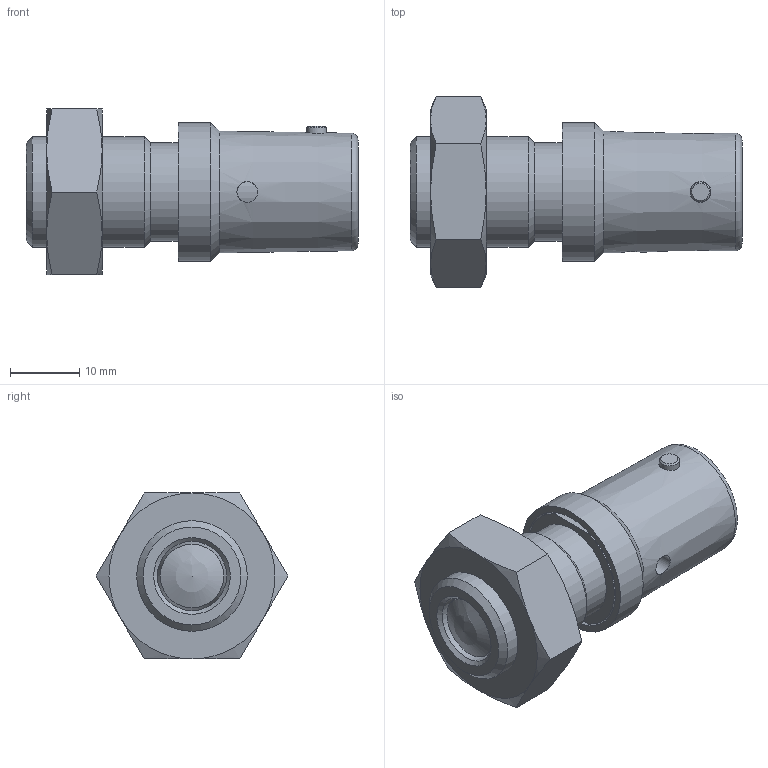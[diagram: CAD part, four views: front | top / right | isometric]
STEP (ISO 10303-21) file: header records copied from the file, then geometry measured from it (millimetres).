
FILE_DESCRIPTION( ( 'STEP AP203' ), '1' );
FILE_NAME( 'C:/Temp/Ganter_Step_05_03_2020/data/3_1/gn816/gn_816_bk/Locking plunger GN 816-10-M16x1,5-BK (activated).stp', '2020-03-12T08:56:05', ( 'License CC BY-ND 4.0' ), ( 'CADENAS' ), ' ', 'PARTsolutions', ' ' );
FILE_SCHEMA( ( 'CONFIG_CONTROL_DESIGN' ) );
Length unit declared in the file: millimetre
Products named in the file (4): Locking plunger GN 816-10-M16x1,5-BK (activated); _GN 816-10-M16x1,5-B(1)-b2; _GN 816-10-M16x1,5-Bb1; _Lock nut ISO 8675 GN 816-10-M16x1,5-AK
Assembly tree (3 placements, depth 2):
  Locking plunger GN 816-10-M16x1,5-BK (activated)
    _GN 816-10-M16x1,5-B(1)-b2
    _GN 816-10-M16x1,5-Bb1
    _Lock nut ISO 8675 GN 816-10-M16x1,5-AK
Bounding box: 48 x 27.71 x 24 mm (x, y, z)
Volume: 12183 mm3; surface area: 8156 mm2
Topology: 3 solids, 3 shells, 63 faces, 128 edges, 77 vertices
Faces by surface type: cone 25, plane 20, cylinder 15, torus 2, sphere 1
Full cylindrical faces by diameter (mm): 2.9 x2, 3 x2, 7 x1, 10 x2, 11.1 x1, 14.2 x1, 14.376 x1, 16 x1, 18 x1, 20 x1
Entity records: 1997 total; most frequent: CARTESIAN_POINT 696, DIRECTION 246, ORIENTED_EDGE 188, AXIS2_PLACEMENT_3D 117, EDGE_LOOP 106, EDGE_CURVE 94, FACE_OUTER_BOUND 78, VERTEX_POINT 73
